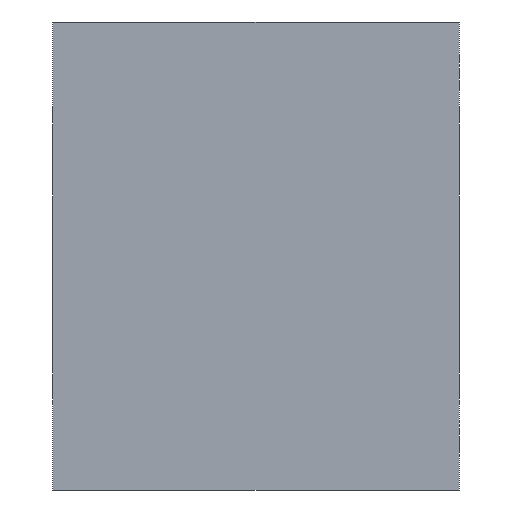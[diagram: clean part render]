
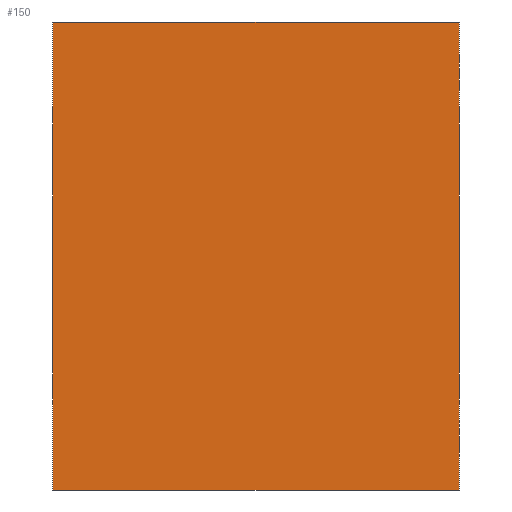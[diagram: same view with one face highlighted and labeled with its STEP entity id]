
A CAD part, front view. The second image highlights one B-rep face of the part: STEP entity #150.
In plain terms, the highlighted planar face has unit normal (0, -1, 0).
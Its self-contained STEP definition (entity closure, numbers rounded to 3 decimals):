
#107=PLANE('',#623);
#121=FACE_OUTER_BOUND('',#297,.T.);
#123=LINE('',#875,#135);
#124=LINE('',#878,#136);
#125=LINE('',#880,#137);
#126=LINE('',#882,#138);
#135=VECTOR('',#711,1.);
#136=VECTOR('',#712,1.);
#137=VECTOR('',#713,1.);
#138=VECTOR('',#714,1.);
#150=ADVANCED_FACE('',(#121),#107,.F.);
#297=EDGE_LOOP('',(#379,#380,#381,#382));
#379=ORIENTED_EDGE('',*,*,#531,.T.);
#380=ORIENTED_EDGE('',*,*,#532,.F.);
#381=ORIENTED_EDGE('',*,*,#533,.F.);
#382=ORIENTED_EDGE('',*,*,#534,.T.);
#479=VERTEX_POINT('',#876);
#480=VERTEX_POINT('',#877);
#481=VERTEX_POINT('',#879);
#482=VERTEX_POINT('',#881);
#531=EDGE_CURVE('',#479,#480,#123,.T.);
#532=EDGE_CURVE('',#481,#480,#124,.T.);
#533=EDGE_CURVE('',#482,#481,#125,.T.);
#534=EDGE_CURVE('',#482,#479,#126,.T.);
#623=AXIS2_PLACEMENT_3D('',#883,#715,#716);
#711=DIRECTION('',(0.,0.,1.));
#712=DIRECTION('',(1.,0.,0.));
#713=DIRECTION('',(0.,0.,1.));
#714=DIRECTION('',(1.,0.,0.));
#715=DIRECTION('',(0.,1.,0.));
#716=DIRECTION('',(0.,0.,1.));
#875=CARTESIAN_POINT('',(0.,-57.,-46.));
#876=CARTESIAN_POINT('',(0.,-57.,-46.));
#877=CARTESIAN_POINT('',(0.,-57.,46.));
#878=CARTESIAN_POINT('',(-80.,-57.,46.));
#879=CARTESIAN_POINT('',(-80.,-57.,46.));
#880=CARTESIAN_POINT('',(-80.,-57.,-46.));
#881=CARTESIAN_POINT('',(-80.,-57.,-46.));
#882=CARTESIAN_POINT('',(-80.,-57.,-46.));
#883=CARTESIAN_POINT('',(-80.,-57.,-46.));
